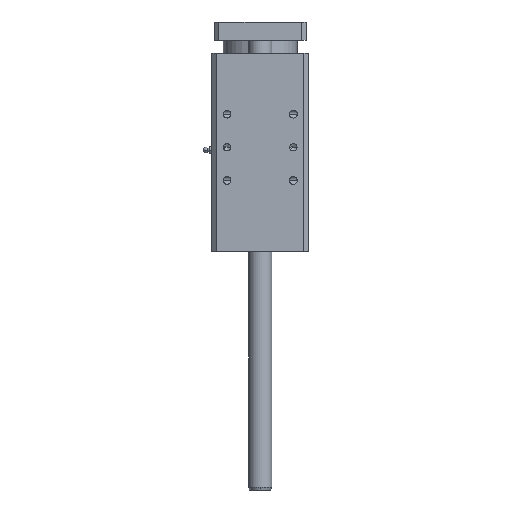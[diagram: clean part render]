
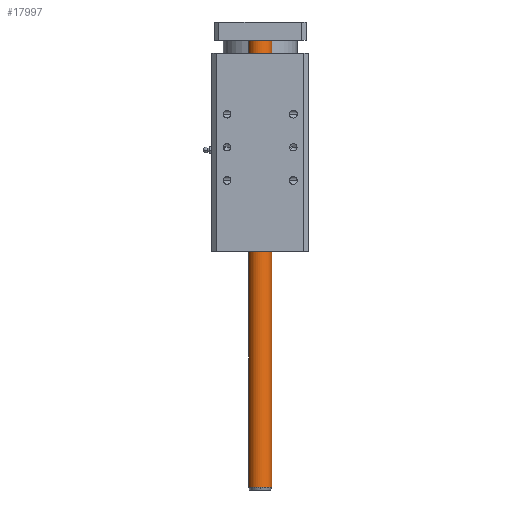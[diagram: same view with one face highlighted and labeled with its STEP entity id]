
A CAD part, left-side view. The second image highlights one B-rep face of the part: STEP entity #17997.
In plain terms, the highlighted cylindrical face has radius 12.5 mm (diameter 25 mm), a partial arc.
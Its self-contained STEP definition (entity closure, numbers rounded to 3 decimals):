
#1536 = CARTESIAN_POINT ( 'NONE',  ( -74., 12.5, 61. ) ) ;
#2769 = DIRECTION ( 'NONE',  ( 0., 0., 1. ) ) ;
#2859 = AXIS2_PLACEMENT_3D ( 'NONE', #25272, #2769, #19040 ) ;
#3416 = VERTEX_POINT ( 'NONE', #1536 ) ;
#4803 = CARTESIAN_POINT ( 'NONE',  ( -74., 0., -427. ) ) ;
#5038 = DIRECTION ( 'NONE',  ( 0., -1., 0. ) ) ;
#5282 = ORIENTED_EDGE ( 'NONE', *, *, #11005, .T. ) ;
#6084 = CARTESIAN_POINT ( 'NONE',  ( -74., 12.5, -424. ) ) ;
#6392 = LINE ( 'NONE', #10223, #13815 ) ;
#6575 = VERTEX_POINT ( 'NONE', #14617 ) ;
#7387 = VERTEX_POINT ( 'NONE', #6084 ) ;
#7461 = CIRCLE ( 'NONE', #8286, 12.5 ) ;
#8286 = AXIS2_PLACEMENT_3D ( 'NONE', #10315, #22827, #16384 ) ;
#8319 = EDGE_LOOP ( 'NONE', ( #8599, #15583, #5282, #16749, #20295 ) ) ;
#8381 = FACE_OUTER_BOUND ( 'NONE', #8319, .T. ) ;
#8599 = ORIENTED_EDGE ( 'NONE', *, *, #16860, .F. ) ;
#9317 = EDGE_CURVE ( 'NONE', #17057, #6575, #6392, .T. ) ;
#9739 = AXIS2_PLACEMENT_3D ( 'NONE', #4803, #25330, #25411 ) ;
#9790 = CARTESIAN_POINT ( 'NONE',  ( -74., -12.5, -424. ) ) ;
#10223 = CARTESIAN_POINT ( 'NONE',  ( -74., -12.5, -427. ) ) ;
#10315 = CARTESIAN_POINT ( 'NONE',  ( -74., 0., 61. ) ) ;
#11005 = EDGE_CURVE ( 'NONE', #15780, #17057, #13093, .T. ) ;
#13093 = CIRCLE ( 'NONE', #2859, 12.5 ) ;
#13504 = LINE ( 'NONE', #19531, #20250 ) ;
#13815 = VECTOR ( 'NONE', #26643, 1000. ) ;
#14617 = CARTESIAN_POINT ( 'NONE',  ( -74., -12.5, 61. ) ) ;
#15542 = AXIS2_PLACEMENT_3D ( 'NONE', #23528, #17416, #5038 ) ;
#15583 = ORIENTED_EDGE ( 'NONE', *, *, #16272, .T. ) ;
#15780 = VERTEX_POINT ( 'NONE', #20707 ) ;
#16272 = EDGE_CURVE ( 'NONE', #7387, #15780, #26123, .T. ) ;
#16384 = DIRECTION ( 'NONE',  ( 0., -1., 0. ) ) ;
#16749 = ORIENTED_EDGE ( 'NONE', *, *, #9317, .T. ) ;
#16860 = EDGE_CURVE ( 'NONE', #7387, #3416, #13504, .T. ) ;
#17057 = VERTEX_POINT ( 'NONE', #9790 ) ;
#17416 = DIRECTION ( 'NONE',  ( 0., 0., 1. ) ) ;
#17569 = DIRECTION ( 'NONE',  ( 0., 0., 1. ) ) ;
#17656 = CYLINDRICAL_SURFACE ( 'NONE', #9739, 12.5 ) ;
#17997 = ADVANCED_FACE ( 'NONE', ( #8381 ), #17656, .T. ) ;
#19040 = DIRECTION ( 'NONE',  ( 0., -1., 0. ) ) ;
#19531 = CARTESIAN_POINT ( 'NONE',  ( -74., 12.5, -427. ) ) ;
#20250 = VECTOR ( 'NONE', #17569, 1000. ) ;
#20295 = ORIENTED_EDGE ( 'NONE', *, *, #23601, .F. ) ;
#20707 = CARTESIAN_POINT ( 'NONE',  ( -86.5, 0., -424. ) ) ;
#22827 = DIRECTION ( 'NONE',  ( 0., 0., 1. ) ) ;
#23528 = CARTESIAN_POINT ( 'NONE',  ( -74., 0., -424. ) ) ;
#23601 = EDGE_CURVE ( 'NONE', #3416, #6575, #7461, .T. ) ;
#25272 = CARTESIAN_POINT ( 'NONE',  ( -74., 0., -424. ) ) ;
#25330 = DIRECTION ( 'NONE',  ( 0., 0., 1. ) ) ;
#25411 = DIRECTION ( 'NONE',  ( 0., -1., 0. ) ) ;
#26123 = CIRCLE ( 'NONE', #15542, 12.5 ) ;
#26643 = DIRECTION ( 'NONE',  ( 0., 0., 1. ) ) ;
